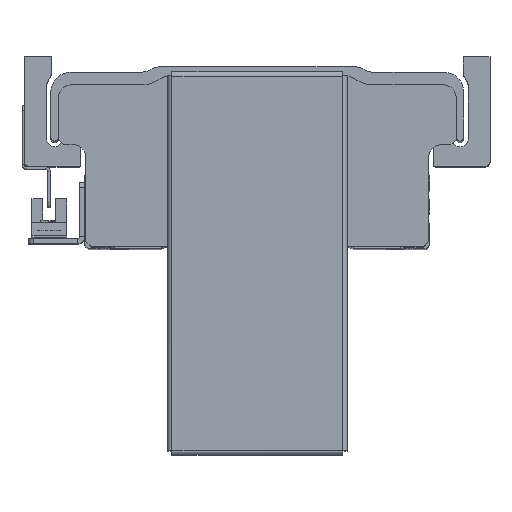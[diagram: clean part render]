
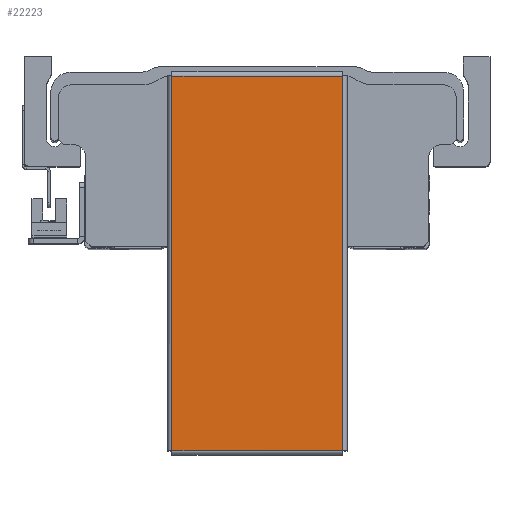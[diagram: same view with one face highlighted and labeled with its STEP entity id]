
A CAD part, top view. The second image highlights one B-rep face of the part: STEP entity #22223.
In plain terms, the highlighted planar face has unit normal (0, 0, 1) as drawn and (0, -1, 0) by its records, which use the part's own axes.
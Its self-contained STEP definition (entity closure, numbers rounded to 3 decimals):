
#5860 = VECTOR ( 'NONE', #10327, 1000. ) ;
#5880 = LINE ( 'NONE', #10242, #5913 ) ;
#5908 = LINE ( 'NONE', #10315, #5860 ) ;
#5913 = VECTOR ( 'NONE', #10243, 1000. ) ;
#5961 = VECTOR ( 'NONE', #10418, 1000. ) ;
#5971 = VECTOR ( 'NONE', #10395, 1000. ) ;
#5980 = LINE ( 'NONE', #10386, #5971 ) ;
#5981 = LINE ( 'NONE', #10361, #5961 ) ;
#10242 = CARTESIAN_POINT ( 'NONE',  ( 73.293, -1., 33.363 ) ) ;
#10243 = DIRECTION ( 'NONE',  ( -1., 0., 0. ) ) ;
#10315 = CARTESIAN_POINT ( 'NONE',  ( -73.263, -1., 33.393 ) ) ;
#10327 = DIRECTION ( 'NONE',  ( 0., 0., -1. ) ) ;
#10361 = CARTESIAN_POINT ( 'NONE',  ( 73.263, -1., -33.393 ) ) ;
#10386 = CARTESIAN_POINT ( 'NONE',  ( -73.293, -1., -33.363 ) ) ;
#10395 = DIRECTION ( 'NONE',  ( 1., 0., 0. ) ) ;
#10418 = DIRECTION ( 'NONE',  ( 0., 0., 1. ) ) ;
#20279 = EDGE_LOOP ( 'NONE', ( #29977, #30009, #30007, #29993 ) ) ;
#22223 = ADVANCED_FACE ( 'NONE', ( #31802 ), #38709, .F. ) ;
#29977 = ORIENTED_EDGE ( 'NONE', *, *, #44388, .T. ) ;
#29993 = ORIENTED_EDGE ( 'NONE', *, *, #44437, .T. ) ;
#30007 = ORIENTED_EDGE ( 'NONE', *, *, #44431, .T. ) ;
#30009 = ORIENTED_EDGE ( 'NONE', *, *, #44416, .T. ) ;
#31802 = FACE_OUTER_BOUND ( 'NONE', #20279, .T. ) ;
#32672 = VERTEX_POINT ( 'NONE', #34813 ) ;
#32748 = VERTEX_POINT ( 'NONE', #34838 ) ;
#32851 = VERTEX_POINT ( 'NONE', #34921 ) ;
#32855 = VERTEX_POINT ( 'NONE', #34885 ) ;
#34813 = CARTESIAN_POINT ( 'NONE',  ( -73.263, -1., -33.363 ) ) ;
#34838 = CARTESIAN_POINT ( 'NONE',  ( -73.263, -1., 33.363 ) ) ;
#34885 = CARTESIAN_POINT ( 'NONE',  ( 73.263, -1., -33.363 ) ) ;
#34921 = CARTESIAN_POINT ( 'NONE',  ( 73.263, -1., 33.363 ) ) ;
#37572 = AXIS2_PLACEMENT_3D ( 'NONE', #38711, #38651, #38674 ) ;
#38651 = DIRECTION ( 'NONE',  ( 0., 1., 0. ) ) ;
#38674 = DIRECTION ( 'NONE',  ( 0., 0., 1. ) ) ;
#38709 = PLANE ( 'NONE',  #37572 ) ;
#38711 = CARTESIAN_POINT ( 'NONE',  ( 0., -1., 0. ) ) ;
#44388 = EDGE_CURVE ( 'NONE', #32851, #32748, #5880, .T. ) ;
#44416 = EDGE_CURVE ( 'NONE', #32748, #32672, #5908, .T. ) ;
#44431 = EDGE_CURVE ( 'NONE', #32672, #32855, #5980, .T. ) ;
#44437 = EDGE_CURVE ( 'NONE', #32855, #32851, #5981, .T. ) ;
